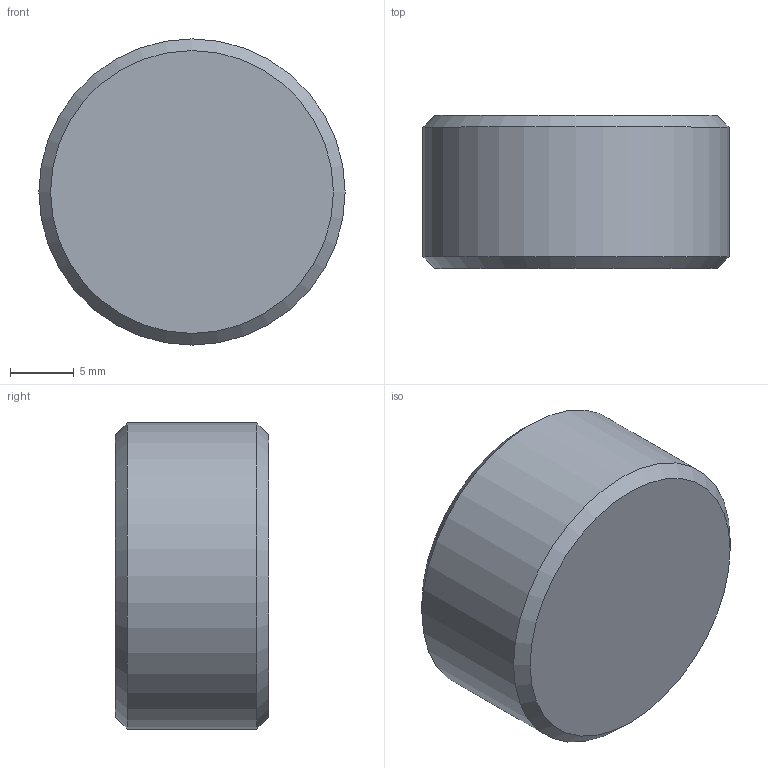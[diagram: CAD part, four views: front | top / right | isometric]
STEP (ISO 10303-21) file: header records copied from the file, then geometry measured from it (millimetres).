
FILE_DESCRIPTION( ( 'STEP AP203' ), '1' );
FILE_NAME( 'C:/Temp/Ganter_Step_05_03_2020/data/3_2/gn252_5/gn_252_5_prb/Stainless Steel-Blanking plug GN 252.5-M24x1,5-PRB.stp', '2020-03-13T05:26:43', ( 'License CC BY-ND 4.0' ), ( 'CADENAS' ), ' ', 'PARTsolutions', ' ' );
FILE_SCHEMA( ( 'CONFIG_CONTROL_DESIGN' ) );
Length unit declared in the file: millimetre
Products named in the file (1): _Stainless Steel-Blanking plug GN 252.5-M24x1,5-PRB
Bounding box: 24 x 12 x 24 mm (x, y, z)
Volume: 3730.5 mm3; surface area: 2177.8 mm2
Topology: 1 solids, 1 shells, 19 faces, 42 edges, 25 vertices
Faces by surface type: plane 14, cone 3, cylinder 2
Full cylindrical faces by diameter (mm): 14 x1, 24 x1
Entity records: 520 total; most frequent: DIRECTION 86, CARTESIAN_POINT 79, ORIENTED_EDGE 70, EDGE_CURVE 35, AXIS2_PLACEMENT_3D 31, EDGE_LOOP 24, VERTEX_POINT 24, LINE 24
